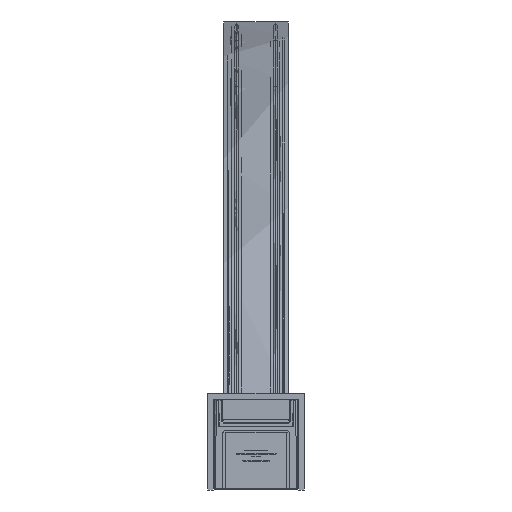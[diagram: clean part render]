
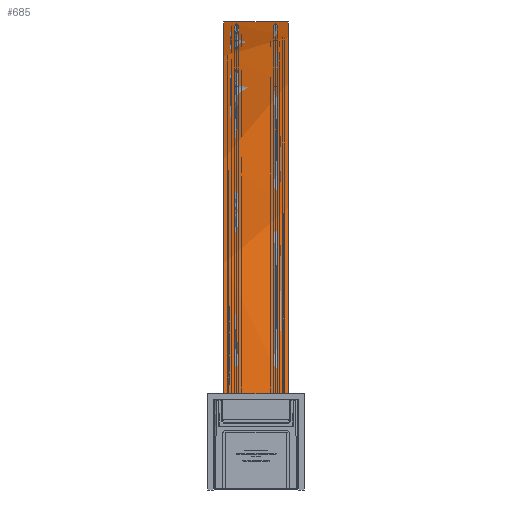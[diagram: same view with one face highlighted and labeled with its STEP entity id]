
A CAD part, front view. The second image highlights one B-rep face of the part: STEP entity #685.
In plain terms, the highlighted free-form (B-spline) face has degree [2, 1] with [9, 2] control points.
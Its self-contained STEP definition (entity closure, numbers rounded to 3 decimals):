
#685=ADVANCED_FACE('',(#1468),#11504,.T.);
#1468=FACE_OUTER_BOUND('',#2282,.T.);
#2282=EDGE_LOOP('',(#5085,#5086,#5087,#5088));
#5085=ORIENTED_EDGE('',*,*,#7490,.T.);
#5086=ORIENTED_EDGE('',*,*,#7491,.T.);
#5087=ORIENTED_EDGE('',*,*,#7492,.T.);
#5088=ORIENTED_EDGE('',*,*,#7493,.T.);
#7490=EDGE_CURVE('',#10627,#10628,#9563,.T.);
#7491=EDGE_CURVE('',#10628,#10629,#8635,.T.);
#7492=EDGE_CURVE('',#10629,#10630,#9564,.T.);
#7493=EDGE_CURVE('',#10630,#10627,#8636,.T.);
#8635=B_SPLINE_CURVE_WITH_KNOTS('',1,(#36676,#36677),.UNSPECIFIED.,.F.,
 .F.,(2,2),(0.,23.4),.UNSPECIFIED.);
#8636=B_SPLINE_CURVE_WITH_KNOTS('',1,(#36681,#36682),.UNSPECIFIED.,.F.,
 .F.,(2,2),(0.,23.4),.UNSPECIFIED.);
#9563=(
BOUNDED_CURVE()
B_SPLINE_CURVE(2,(#36673,#36674,#36675),.UNSPECIFIED.,.F.,.F.)
B_SPLINE_CURVE_WITH_KNOTS((3,3),(0.,500.),.UNSPECIFIED.)
CURVE()
GEOMETRIC_REPRESENTATION_ITEM()
RATIONAL_B_SPLINE_CURVE((1.,0.962,1.))
REPRESENTATION_ITEM('')
);
#9564=(
BOUNDED_CURVE()
B_SPLINE_CURVE(2,(#36678,#36679,#36680),.UNSPECIFIED.,.F.,.F.)
B_SPLINE_CURVE_WITH_KNOTS((3,3),(0.,500.),.UNSPECIFIED.)
CURVE()
GEOMETRIC_REPRESENTATION_ITEM()
RATIONAL_B_SPLINE_CURVE((1.,0.962,1.))
REPRESENTATION_ITEM('')
);
#10627=VERTEX_POINT('',#36156);
#10628=VERTEX_POINT('',#36157);
#10629=VERTEX_POINT('',#36158);
#10630=VERTEX_POINT('',#36159);
#11504=(
BOUNDED_SURFACE()
B_SPLINE_SURFACE(2,1,((#29041,#29042),(#29043,#29044),(#29045,#29046),(#29047,
#29048),(#29049,#29050),(#29051,#29052),(#29053,#29054),(#29055,#29056),
(#29057,#29058)),.UNSPECIFIED.,.T.,.F.,.F.)
B_SPLINE_SURFACE_WITH_KNOTS((3,2,2,2,3),(2,2),(0.,1413.717,2827.433,
4241.15,5654.867),(0.,28.08),.UNSPECIFIED.)
GEOMETRIC_REPRESENTATION_ITEM()
RATIONAL_B_SPLINE_SURFACE(((1.,1.),(0.707,0.707),
(1.,1.),(0.707,0.707),(1.,1.),(0.707,
0.707),(1.,1.),(0.707,0.707),(1.,1.)))
REPRESENTATION_ITEM('')
SURFACE()
);
#29041=CARTESIAN_POINT('',(14.04,0.,-1796.175));
#29042=CARTESIAN_POINT('',(-14.04,0.,-1796.175));
#29043=CARTESIAN_POINT('',(14.04,-900.,-1796.175));
#29044=CARTESIAN_POINT('',(-14.04,-900.,-1796.175));
#29045=CARTESIAN_POINT('',(14.04,-900.,-896.175));
#29046=CARTESIAN_POINT('',(-14.04,-900.,-896.175));
#29047=CARTESIAN_POINT('',(14.04,-900.,3.825));
#29048=CARTESIAN_POINT('',(-14.04,-900.,3.825));
#29049=CARTESIAN_POINT('',(14.04,0.,3.825));
#29050=CARTESIAN_POINT('',(-14.04,0.,3.825));
#29051=CARTESIAN_POINT('',(14.04,900.,3.825));
#29052=CARTESIAN_POINT('',(-14.04,900.,3.825));
#29053=CARTESIAN_POINT('',(14.04,900.,-896.175));
#29054=CARTESIAN_POINT('',(-14.04,900.,-896.175));
#29055=CARTESIAN_POINT('',(14.04,900.,-1796.175));
#29056=CARTESIAN_POINT('',(-14.04,900.,-1796.175));
#29057=CARTESIAN_POINT('',(14.04,0.,-1796.175));
#29058=CARTESIAN_POINT('',(-14.04,0.,-1796.175));
#36156=CARTESIAN_POINT('',(11.7,-474.674,-131.528));
#36157=CARTESIAN_POINT('',(11.7,0.,3.825));
#36158=CARTESIAN_POINT('',(-11.7,0.,3.825));
#36159=CARTESIAN_POINT('',(-11.7,-474.674,-131.528));
#36673=CARTESIAN_POINT('',(11.7,-474.674,-131.528));
#36674=CARTESIAN_POINT('',(11.7,-256.635,3.825));
#36675=CARTESIAN_POINT('',(11.7,0.,3.825));
#36676=CARTESIAN_POINT('',(11.7,0.,3.825));
#36677=CARTESIAN_POINT('',(-11.7,0.,3.825));
#36678=CARTESIAN_POINT('',(-11.7,0.,3.825));
#36679=CARTESIAN_POINT('',(-11.7,-256.635,3.825));
#36680=CARTESIAN_POINT('',(-11.7,-474.674,-131.528));
#36681=CARTESIAN_POINT('',(-11.7,-474.674,-131.528));
#36682=CARTESIAN_POINT('',(11.7,-474.674,-131.528));
